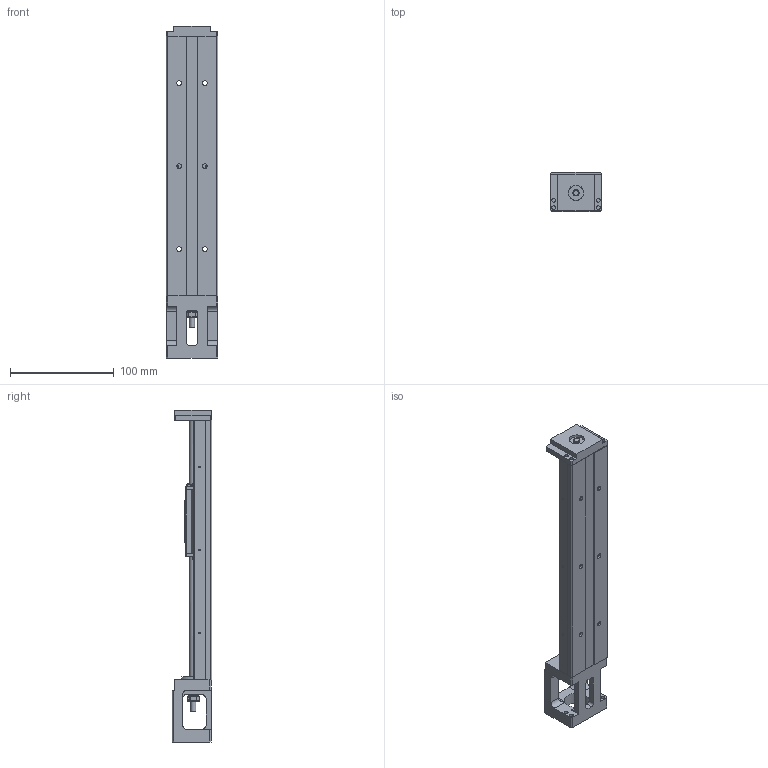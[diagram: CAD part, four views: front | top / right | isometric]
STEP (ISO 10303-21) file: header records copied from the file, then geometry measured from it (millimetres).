
FILE_DESCRIPTION(/* description */ (''),/* implementation_level */ '2;1');
FILE_NAME(/* name */ '26-250.stp',/* time_stamp */ '2016-12-16T14:55:58+08:00',/* author */ (''),/* organization */ (''),/* preprocessor_version */ 'ST-DEVELOPER v11',/* originating_system */ 'SIEMENS UGS NX 6.0',/* authorisation */ '');
FILE_SCHEMA (('AUTOMOTIVE_DESIGN { 1 0 10303 214 1 1 1 1 }'));
Length unit declared in the file: millimetre
Products named in the file (1): model4
Bounding box: 50 x 38.5 x 320 mm (x, y, z)
Volume: 234249.9 mm3; surface area: 83604.6 mm2
Topology: 5 solids, 10 shells, 653 faces, 1694 edges, 1089 vertices
Faces by surface type: plane 337, cylinder 226, cone 59, bspline 20, torus 6, extrusion 4, sphere 1
Full cylindrical faces by diameter (mm): 1.6 x6, 2.42 x6, 2.5 x5, 2.8 x6, 3.2 x4, 3.3 x2, 3.5 x6, 4 x4, 4.5 x6, 5 x7, 5.7 x1, 6 x9, 8 x31, 9 x2, 10 x1, 15 x2, 16.9 x1
Entity records: 28954 total; most frequent: CARTESIAN_POINT 11226, DIRECTION 2971, ORIENTED_EDGE 2928, EDGE_CURVE 1464, AXIS2_PLACEMENT_3D 1054, VERTEX_POINT 1017, VECTOR 863, LINE 859
